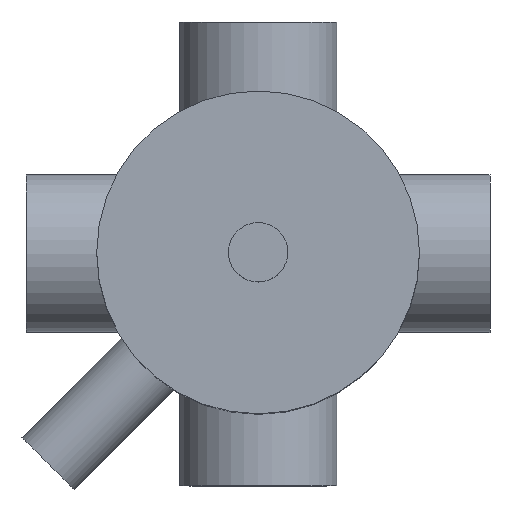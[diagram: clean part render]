
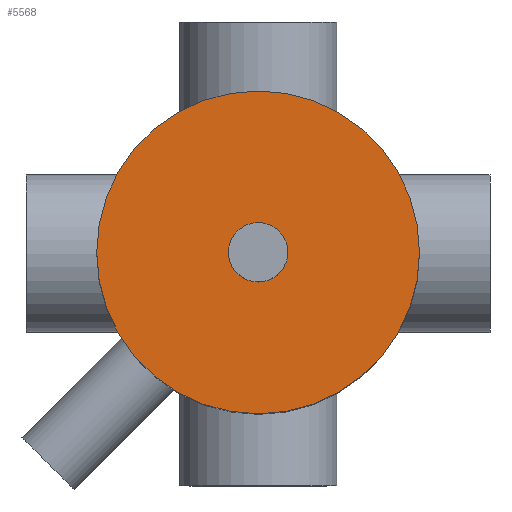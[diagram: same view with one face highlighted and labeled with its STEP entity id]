
A CAD part, top view. The second image highlights one B-rep face of the part: STEP entity #5568.
In plain terms, the highlighted planar face has unit normal (0, 0, 1).
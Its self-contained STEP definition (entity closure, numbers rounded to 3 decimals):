
#5484 = CYLINDRICAL_SURFACE('',#5485,87.);
#5485 = AXIS2_PLACEMENT_3D('',#5486,#5487,#5488);
#5486 = CARTESIAN_POINT('',(0.,0.,198.5));
#5487 = DIRECTION('',(0.,0.,1.));
#5488 = DIRECTION('',(1.,0.,0.));
#5517 = EDGE_CURVE('',#5518,#5518,#5520,.T.);
#5518 = VERTEX_POINT('',#5519);
#5519 = CARTESIAN_POINT('',(87.,0.,391.8));
#5520 = SURFACE_CURVE('',#5521,(#5526,#5533),.PCURVE_S1.);
#5521 = CIRCLE('',#5522,87.);
#5522 = AXIS2_PLACEMENT_3D('',#5523,#5524,#5525);
#5523 = CARTESIAN_POINT('',(0.,0.,391.8));
#5524 = DIRECTION('',(0.,0.,1.));
#5525 = DIRECTION('',(1.,0.,0.));
#5526 = PCURVE('',#5484,#5527);
#5527 = DEFINITIONAL_REPRESENTATION('',(#5528),#5532);
#5528 = LINE('',#5529,#5530);
#5529 = CARTESIAN_POINT('',(0.,193.3));
#5530 = VECTOR('',#5531,1.);
#5531 = DIRECTION('',(1.,0.));
#5532 = ( GEOMETRIC_REPRESENTATION_CONTEXT(2) 
PARAMETRIC_REPRESENTATION_CONTEXT() REPRESENTATION_CONTEXT('2D SPACE',''
  ) );
#5533 = PCURVE('',#5534,#5539);
#5534 = PLANE('',#5535);
#5535 = AXIS2_PLACEMENT_3D('',#5536,#5537,#5538);
#5536 = CARTESIAN_POINT('',(0.,0.,391.8));
#5537 = DIRECTION('',(0.,0.,1.));
#5538 = DIRECTION('',(1.,0.,0.));
#5539 = DEFINITIONAL_REPRESENTATION('',(#5540),#5544);
#5540 = CIRCLE('',#5541,87.);
#5541 = AXIS2_PLACEMENT_2D('',#5542,#5543);
#5542 = CARTESIAN_POINT('',(0.,0.));
#5543 = DIRECTION('',(1.,0.));
#5544 = ( GEOMETRIC_REPRESENTATION_CONTEXT(2) 
PARAMETRIC_REPRESENTATION_CONTEXT() REPRESENTATION_CONTEXT('2D SPACE',''
  ) );
#5568 = ADVANCED_FACE('',(#5569,#5572),#5534,.T.);
#5569 = FACE_BOUND('',#5570,.T.);
#5570 = EDGE_LOOP('',(#5571));
#5571 = ORIENTED_EDGE('',*,*,#5517,.T.);
#5572 = FACE_BOUND('',#5573,.T.);
#5573 = EDGE_LOOP('',(#5574));
#5574 = ORIENTED_EDGE('',*,*,#5575,.F.);
#5575 = EDGE_CURVE('',#5576,#5576,#5578,.T.);
#5576 = VERTEX_POINT('',#5577);
#5577 = CARTESIAN_POINT('',(16.,0.,391.8));
#5578 = SURFACE_CURVE('',#5579,(#5584,#5591),.PCURVE_S1.);
#5579 = CIRCLE('',#5580,16.);
#5580 = AXIS2_PLACEMENT_3D('',#5581,#5582,#5583);
#5581 = CARTESIAN_POINT('',(0.,0.,391.8));
#5582 = DIRECTION('',(0.,0.,1.));
#5583 = DIRECTION('',(1.,0.,-0.));
#5584 = PCURVE('',#5534,#5585);
#5585 = DEFINITIONAL_REPRESENTATION('',(#5586),#5590);
#5586 = CIRCLE('',#5587,16.);
#5587 = AXIS2_PLACEMENT_2D('',#5588,#5589);
#5588 = CARTESIAN_POINT('',(0.,0.));
#5589 = DIRECTION('',(1.,0.));
#5590 = ( GEOMETRIC_REPRESENTATION_CONTEXT(2) 
PARAMETRIC_REPRESENTATION_CONTEXT() REPRESENTATION_CONTEXT('2D SPACE',''
  ) );
#5591 = PCURVE('',#5592,#5597);
#5592 = CYLINDRICAL_SURFACE('',#5593,16.);
#5593 = AXIS2_PLACEMENT_3D('',#5594,#5595,#5596);
#5594 = CARTESIAN_POINT('',(0.,0.,72.));
#5595 = DIRECTION('',(0.,0.,1.));
#5596 = DIRECTION('',(1.,0.,0.));
#5597 = DEFINITIONAL_REPRESENTATION('',(#5598),#5602);
#5598 = LINE('',#5599,#5600);
#5599 = CARTESIAN_POINT('',(0.,319.8));
#5600 = VECTOR('',#5601,1.);
#5601 = DIRECTION('',(1.,0.));
#5602 = ( GEOMETRIC_REPRESENTATION_CONTEXT(2) 
PARAMETRIC_REPRESENTATION_CONTEXT() REPRESENTATION_CONTEXT('2D SPACE',''
  ) );
